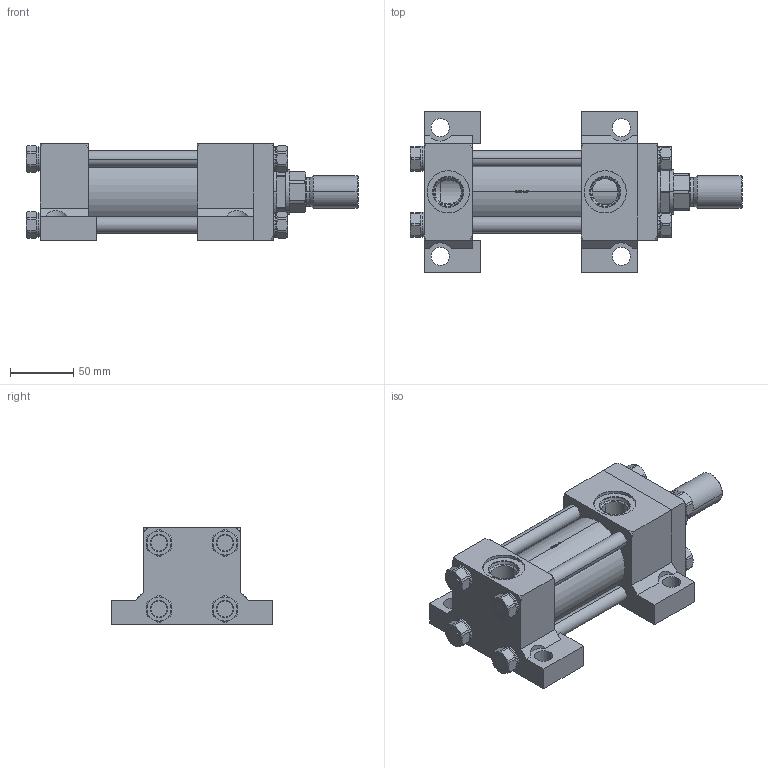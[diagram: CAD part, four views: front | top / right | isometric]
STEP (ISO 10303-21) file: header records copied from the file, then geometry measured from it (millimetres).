
FILE_DESCRIPTION (( 'STEP AP214' ), '1' );
FILE_NAME ('2.00C2HHNAT124A2.000.step', '2026-03-26T21:12:16', ( '' ), ( '' ), 'SwSTEP 2.0', 'SolidWorks 2023', '' );
FILE_SCHEMA (( 'AUTOMOTIVE_DESIGN' ));
Length unit declared in the file: inch
Products named in the file (1): 2.00C2HHNAT124A2.000
Bounding box: 261.94 x 127 x 76.2 mm (x, y, z)
Volume: 895808.5 mm3; surface area: 235026.5 mm2
Topology: 44 solids, 44 shells, 1205 faces, 3114 edges, 2004 vertices
Faces by surface type: plane 789, cylinder 217, cone 161, bspline 30, torus 8
Entity records: 54445 total; most frequent: CARTESIAN_POINT 10660, ORIENTED_EDGE 6228, DIRECTION 5108, EDGE_CURVE 3114, VERTEX_POINT 2004, AXIS2_PLACEMENT_3D 1736, VECTOR 1636, LINE 1636
